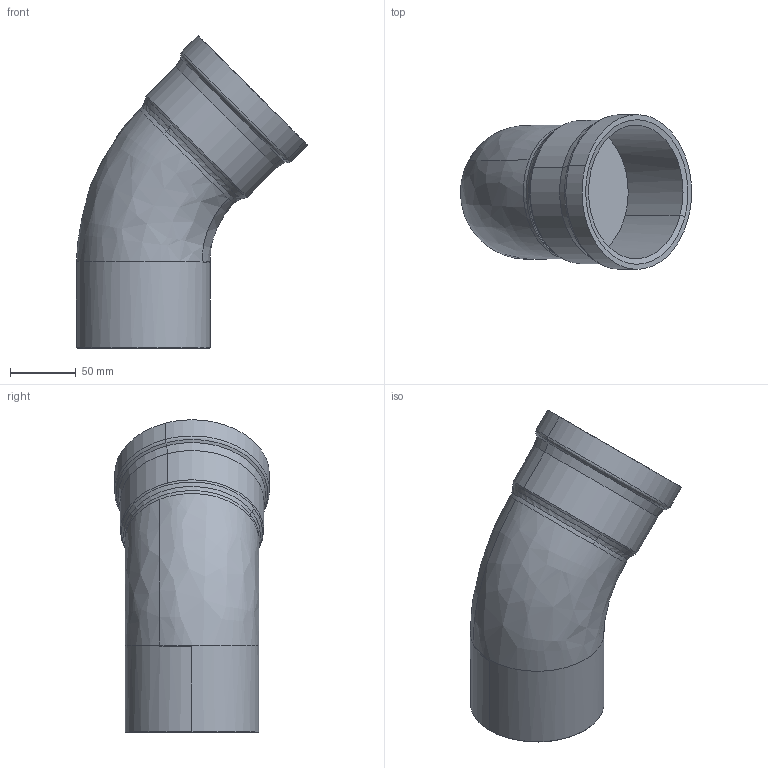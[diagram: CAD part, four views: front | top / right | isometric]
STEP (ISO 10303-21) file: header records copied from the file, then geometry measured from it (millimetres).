
FILE_DESCRIPTION(('STEP AP214'),'1');
FILE_NAME('pim0004556.stp','2015-04-30T15:59:39',('Cad-Pim'),('TransMagic, Inc.'),'TMR11sp0','TransMagic R11',' ');
FILE_SCHEMA(('AUTOMOTIVE_DESIGN'));
Length unit declared in the file: millimetre
Products named in the file (1): pim0004556
Bounding box: 175.37 x 117.5 x 237.11 mm (x, y, z)
Volume: 1444708.9 mm3; surface area: 112287 mm2
Topology: 1 solids, 1 shells, 31 faces, 83 edges, 55 vertices
Faces by surface type: bspline 13, cone 10, cylinder 8
Entity records: 1920 total; most frequent: CARTESIAN_POINT 1029, ORIENTED_EDGE 166, DIRECTION 92, EDGE_CURVE 83, VERTEX_POINT 55, AXIS2_PLACEMENT_3D 35, STYLED_ITEM 32, PRESENTATION_STYLE_ASSIGNMENT 32
